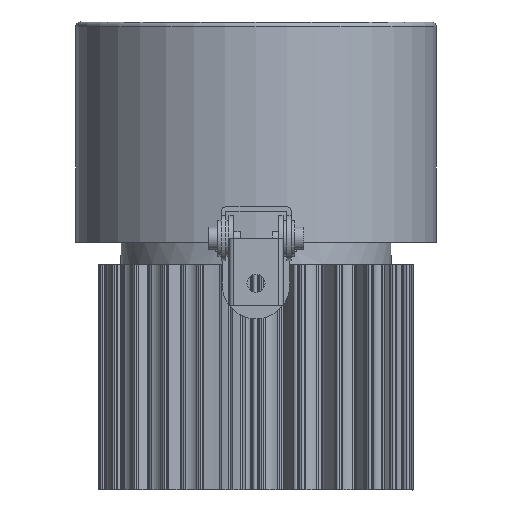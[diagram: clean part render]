
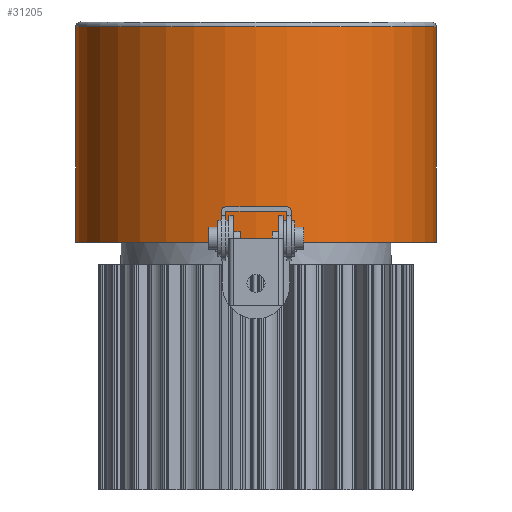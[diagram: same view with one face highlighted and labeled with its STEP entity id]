
A CAD part, front view. The second image highlights one B-rep face of the part: STEP entity #31205.
In plain terms, the highlighted cylindrical face has radius 40 mm (diameter 80 mm), a full revolution.
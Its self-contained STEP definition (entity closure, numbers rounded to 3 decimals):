
#3996=FACE_OUTER_BOUND('',#5820,.T.);
#5820=EDGE_LOOP('',(#28482,#28483,#28484,#28485));
#7574=LINE('',#116167,#9242);
#9242=VECTOR('',#43106,40.);
#11144=CIRCLE('',#34656,40.);
#11145=CIRCLE('',#34658,40.);
#14269=VERTEX_POINT('',#116162);
#14270=VERTEX_POINT('',#116165);
#19021=EDGE_CURVE('',#14269,#14269,#11144,.T.);
#19022=EDGE_CURVE('',#14270,#14270,#11145,.T.);
#19023=EDGE_CURVE('',#14270,#14269,#7574,.T.);
#28482=ORIENTED_EDGE('',*,*,#19022,.F.);
#28483=ORIENTED_EDGE('',*,*,#19023,.T.);
#28484=ORIENTED_EDGE('',*,*,#19021,.T.);
#28485=ORIENTED_EDGE('',*,*,#19023,.F.);
#29513=CYLINDRICAL_SURFACE('',#34657,40.);
#31205=ADVANCED_FACE('',(#3996),#29513,.T.);
#34656=AXIS2_PLACEMENT_3D('',#116163,#43100,#43101);
#34657=AXIS2_PLACEMENT_3D('',#116164,#43102,#43103);
#34658=AXIS2_PLACEMENT_3D('',#116166,#43104,#43105);
#43100=DIRECTION('center_axis',(0.,0.,
1.));
#43101=DIRECTION('ref_axis',(1.,0.,0.));
#43102=DIRECTION('center_axis',(0.,0.,
1.));
#43103=DIRECTION('ref_axis',(1.,0.,0.));
#43104=DIRECTION('center_axis',(0.,0.,
1.));
#43105=DIRECTION('ref_axis',(1.,0.,0.));
#43106=DIRECTION('',(0.,0.,-1.));
#116162=CARTESIAN_POINT('',(153.496,383.283,-604.294));
#116163=CARTESIAN_POINT('Origin',(193.496,383.283,-604.294));
#116164=CARTESIAN_POINT('Origin',(193.496,383.283,-580.344));
#116165=CARTESIAN_POINT('',(153.496,383.283,-556.394));
#116166=CARTESIAN_POINT('Origin',(193.496,383.283,-556.394));
#116167=CARTESIAN_POINT('',(153.496,383.283,-580.344));
